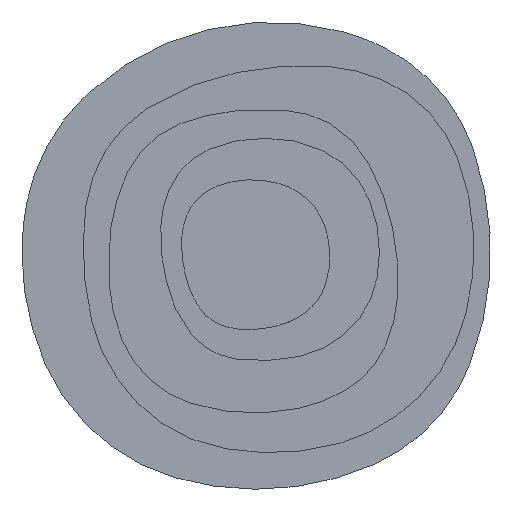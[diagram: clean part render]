
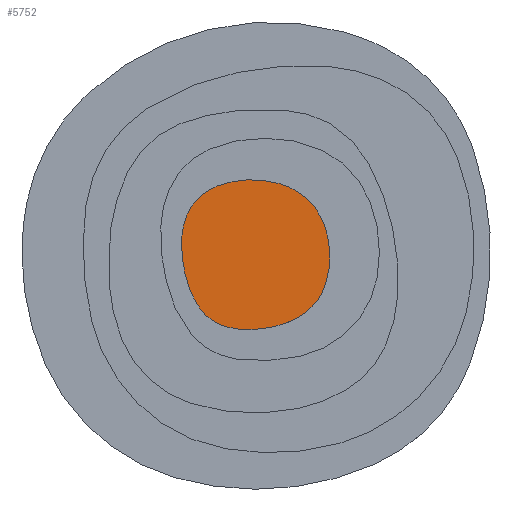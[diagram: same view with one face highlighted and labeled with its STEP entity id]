
A CAD part, top view. The second image highlights one B-rep face of the part: STEP entity #5752.
In plain terms, the highlighted planar face has unit normal (0, 0, 1).
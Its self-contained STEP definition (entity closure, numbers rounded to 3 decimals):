
#103 = AXIS2_PLACEMENT_3D ( 'NONE', #2091, #401, #386 ) ;
#161 = ORIENTED_EDGE ( 'NONE', *, *, #1010, .T. ) ;
#204 = CIRCLE ( 'NONE', #4395, 39.245 ) ;
#283 = CIRCLE ( 'NONE', #1109, 44.624 ) ;
#288 = EDGE_CURVE ( 'NONE', #892, #5822, #204, .T. ) ;
#295 = VERTEX_POINT ( 'NONE', #916 ) ;
#386 = DIRECTION ( 'NONE',  ( -1., 0., 0. ) ) ;
#401 = DIRECTION ( 'NONE',  ( 0., 0., 1. ) ) ;
#430 = CARTESIAN_POINT ( 'NONE',  ( 40.364, 39.75, 54. ) ) ;
#574 = VERTEX_POINT ( 'NONE', #5227 ) ;
#576 = DIRECTION ( 'NONE',  ( -1., 0., 0. ) ) ;
#584 = DIRECTION ( 'NONE',  ( 0., 0., 1. ) ) ;
#597 = CARTESIAN_POINT ( 'NONE',  ( 3.716, -2.048, 54. ) ) ;
#612 = VERTEX_POINT ( 'NONE', #5352 ) ;
#691 = CIRCLE ( 'NONE', #1445, 55.589 ) ;
#791 = AXIS2_PLACEMENT_3D ( 'NONE', #6137, #6493, #1705 ) ;
#820 = AXIS2_PLACEMENT_3D ( 'NONE', #3753, #3553, #3573 ) ;
#888 = CARTESIAN_POINT ( 'NONE',  ( -13.531, 12.749, 54. ) ) ;
#892 = VERTEX_POINT ( 'NONE', #6236 ) ;
#899 = DIRECTION ( 'NONE',  ( 0., 0., 1. ) ) ;
#901 = DIRECTION ( 'NONE',  ( -1., 0., 0. ) ) ;
#916 = CARTESIAN_POINT ( 'NONE',  ( -19.964, -55.784, 54. ) ) ;
#937 = CARTESIAN_POINT ( 'NONE',  ( 54.309, -22.156, 54. ) ) ;
#1010 = EDGE_CURVE ( 'NONE', #6877, #6622, #2364, .T. ) ;
#1012 = EDGE_CURVE ( 'NONE', #2830, #295, #2453, .T. ) ;
#1068 = ORIENTED_EDGE ( 'NONE', *, *, #3962, .T. ) ;
#1109 = AXIS2_PLACEMENT_3D ( 'NONE', #5624, #5617, #5615 ) ;
#1145 = AXIS2_PLACEMENT_3D ( 'NONE', #6522, #3408, #7024 ) ;
#1357 = ORIENTED_EDGE ( 'NONE', *, *, #1012, .T. ) ;
#1445 = AXIS2_PLACEMENT_3D ( 'NONE', #597, #584, #576 ) ;
#1612 = AXIS2_PLACEMENT_3D ( 'NONE', #3482, #3629, #3460 ) ;
#1705 = DIRECTION ( 'NONE',  ( -1., 0., 0. ) ) ;
#1830 = AXIS2_PLACEMENT_3D ( 'NONE', #5432, #5422, #5417 ) ;
#1928 = EDGE_CURVE ( 'NONE', #6560, #892, #4079, .T. ) ;
#1933 = CARTESIAN_POINT ( 'NONE',  ( -39.617, -42.497, 54. ) ) ;
#2091 = CARTESIAN_POINT ( 'NONE',  ( 2.876, 1.834, 54. ) ) ;
#2110 = EDGE_CURVE ( 'NONE', #612, #574, #4252, .T. ) ;
#2298 = CIRCLE ( 'NONE', #1145, 69.364 ) ;
#2364 = CIRCLE ( 'NONE', #4025, 69.425 ) ;
#2453 = CIRCLE ( 'NONE', #4022, 34.631 ) ;
#2697 = EDGE_CURVE ( 'NONE', #6647, #6120, #5371, .T. ) ;
#2701 = CARTESIAN_POINT ( 'NONE',  ( 18.23, 51.613, 54. ) ) ;
#2740 = AXIS2_PLACEMENT_3D ( 'NONE', #5742, #5781, #5799 ) ;
#2830 = VERTEX_POINT ( 'NONE', #1933 ) ;
#3013 = AXIS2_PLACEMENT_3D ( 'NONE', #6947, #6959, #6969 ) ;
#3179 = AXIS2_PLACEMENT_3D ( 'NONE', #6538, #6511, #6505 ) ;
#3275 = CARTESIAN_POINT ( 'NONE',  ( -49.755, 27.848, 54. ) ) ;
#3336 = EDGE_CURVE ( 'NONE', #5822, #5480, #6128, .T. ) ;
#3364 = FACE_OUTER_BOUND ( 'NONE', #4167, .T. ) ;
#3408 = DIRECTION ( 'NONE',  ( 0., 0., 1. ) ) ;
#3460 = DIRECTION ( 'NONE',  ( 1., 0., 0. ) ) ;
#3482 = CARTESIAN_POINT ( 'NONE',  ( 26.845, 0.629, 54. ) ) ;
#3483 = PLANE ( 'NONE',  #1612 ) ;
#3496 = ORIENTED_EDGE ( 'NONE', *, *, #5457, .T. ) ;
#3553 = DIRECTION ( 'NONE',  ( 0., 0., 1. ) ) ;
#3573 = DIRECTION ( 'NONE',  ( -1., 0., 0. ) ) ;
#3610 = ORIENTED_EDGE ( 'NONE', *, *, #3336, .T. ) ;
#3629 = DIRECTION ( 'NONE',  ( 0., 0., 1. ) ) ;
#3753 = CARTESIAN_POINT ( 'NONE',  ( -1.241, -20.374, 54. ) ) ;
#3779 = ORIENTED_EDGE ( 'NONE', *, *, #288, .T. ) ;
#3962 = EDGE_CURVE ( 'NONE', #295, #6877, #4344, .T. ) ;
#4022 = AXIS2_PLACEMENT_3D ( 'NONE', #6689, #6702, #6733 ) ;
#4025 = AXIS2_PLACEMENT_3D ( 'NONE', #6625, #6628, #6639 ) ;
#4079 = CIRCLE ( 'NONE', #820, 74.574 ) ;
#4167 = EDGE_LOOP ( 'NONE', ( #3779, #3610, #3496, #6224, #4588, #1357, #1068, #161, #6568, #6143, #6521, #5310, #6545 ) ) ;
#4208 = EDGE_CURVE ( 'NONE', #574, #2830, #4992, .T. ) ;
#4252 = CIRCLE ( 'NONE', #791, 94.822 ) ;
#4344 = CIRCLE ( 'NONE', #3013, 67.438 ) ;
#4395 = AXIS2_PLACEMENT_3D ( 'NONE', #888, #899, #901 ) ;
#4588 = ORIENTED_EDGE ( 'NONE', *, *, #4208, .T. ) ;
#4880 = CARTESIAN_POINT ( 'NONE',  ( 32.198, -49.382, 54. ) ) ;
#4949 = CARTESIAN_POINT ( 'NONE',  ( 5.953, -57.114, 54. ) ) ;
#4992 = CIRCLE ( 'NONE', #2740, 64.53 ) ;
#5227 = CARTESIAN_POINT ( 'NONE',  ( -47.832, -27.149, 54. ) ) ;
#5310 = ORIENTED_EDGE ( 'NONE', *, *, #6001, .T. ) ;
#5347 = CIRCLE ( 'NONE', #1830, 94.822 ) ;
#5352 = CARTESIAN_POINT ( 'NONE',  ( -53.781, 5.91, 54. ) ) ;
#5361 = CARTESIAN_POINT ( 'NONE',  ( -53.673, 10.434, 54. ) ) ;
#5371 = CIRCLE ( 'NONE', #103, 53.32 ) ;
#5417 = DIRECTION ( 'NONE',  ( -1., 0., 0. ) ) ;
#5422 = DIRECTION ( 'NONE',  ( 0., 0., 1. ) ) ;
#5430 = EDGE_CURVE ( 'NONE', #6622, #5993, #283, .T. ) ;
#5432 = CARTESIAN_POINT ( 'NONE',  ( 41.041, 5.91, 54. ) ) ;
#5457 = EDGE_CURVE ( 'NONE', #5480, #612, #5347, .T. ) ;
#5480 = VERTEX_POINT ( 'NONE', #5361 ) ;
#5615 = DIRECTION ( 'NONE',  ( -1., 0., 0. ) ) ;
#5617 = DIRECTION ( 'NONE',  ( 0., 0., 1. ) ) ;
#5624 = CARTESIAN_POINT ( 'NONE',  ( 11.4, -9.901, 54. ) ) ;
#5742 = CARTESIAN_POINT ( 'NONE',  ( 12.649, -4.651, 54. ) ) ;
#5752 = ADVANCED_FACE ( 'NONE', ( #3364 ), #3483, .T. ) ;
#5781 = DIRECTION ( 'NONE',  ( 0., 0., 1. ) ) ;
#5799 = DIRECTION ( 'NONE',  ( -1., 0., 0. ) ) ;
#5822 = VERTEX_POINT ( 'NONE', #3275 ) ;
#5932 = CARTESIAN_POINT ( 'NONE',  ( 53.605, 18.252, 54. ) ) ;
#5993 = VERTEX_POINT ( 'NONE', #937 ) ;
#6001 = EDGE_CURVE ( 'NONE', #6120, #6560, #691, .T. ) ;
#6120 = VERTEX_POINT ( 'NONE', #430 ) ;
#6128 = CIRCLE ( 'NONE', #3179, 51.668 ) ;
#6137 = CARTESIAN_POINT ( 'NONE',  ( 41.041, 5.91, 54. ) ) ;
#6143 = ORIENTED_EDGE ( 'NONE', *, *, #6910, .T. ) ;
#6224 = ORIENTED_EDGE ( 'NONE', *, *, #2110, .T. ) ;
#6236 = CARTESIAN_POINT ( 'NONE',  ( -27.182, 49.543, 54. ) ) ;
#6493 = DIRECTION ( 'NONE',  ( 0., 0., 1. ) ) ;
#6505 = DIRECTION ( 'NONE',  ( -1., 0., 0. ) ) ;
#6511 = DIRECTION ( 'NONE',  ( 0., 0., 1. ) ) ;
#6521 = ORIENTED_EDGE ( 'NONE', *, *, #2697, .T. ) ;
#6522 = CARTESIAN_POINT ( 'NONE',  ( -12.388, -3.107, 54. ) ) ;
#6538 = CARTESIAN_POINT ( 'NONE',  ( -2.064, 7.969, 54. ) ) ;
#6545 = ORIENTED_EDGE ( 'NONE', *, *, #1928, .T. ) ;
#6560 = VERTEX_POINT ( 'NONE', #2701 ) ;
#6568 = ORIENTED_EDGE ( 'NONE', *, *, #5430, .T. ) ;
#6622 = VERTEX_POINT ( 'NONE', #4880 ) ;
#6625 = CARTESIAN_POINT ( 'NONE',  ( -0.159, 12.042, 54. ) ) ;
#6628 = DIRECTION ( 'NONE',  ( 0., 0., 1. ) ) ;
#6639 = DIRECTION ( 'NONE',  ( -1., 0., 0. ) ) ;
#6647 = VERTEX_POINT ( 'NONE', #5932 ) ;
#6689 = CARTESIAN_POINT ( 'NONE',  ( -11.567, -22.186, 54. ) ) ;
#6702 = DIRECTION ( 'NONE',  ( 0., 0., 1. ) ) ;
#6733 = DIRECTION ( 'NONE',  ( -1., 0., 0. ) ) ;
#6877 = VERTEX_POINT ( 'NONE', #4949 ) ;
#6910 = EDGE_CURVE ( 'NONE', #5993, #6647, #2298, .T. ) ;
#6947 = CARTESIAN_POINT ( 'NONE',  ( -3.614, 9.641, 54. ) ) ;
#6959 = DIRECTION ( 'NONE',  ( 0., 0., 1. ) ) ;
#6969 = DIRECTION ( 'NONE',  ( -1., 0., 0. ) ) ;
#7024 = DIRECTION ( 'NONE',  ( -1., 0., 0. ) ) ;
